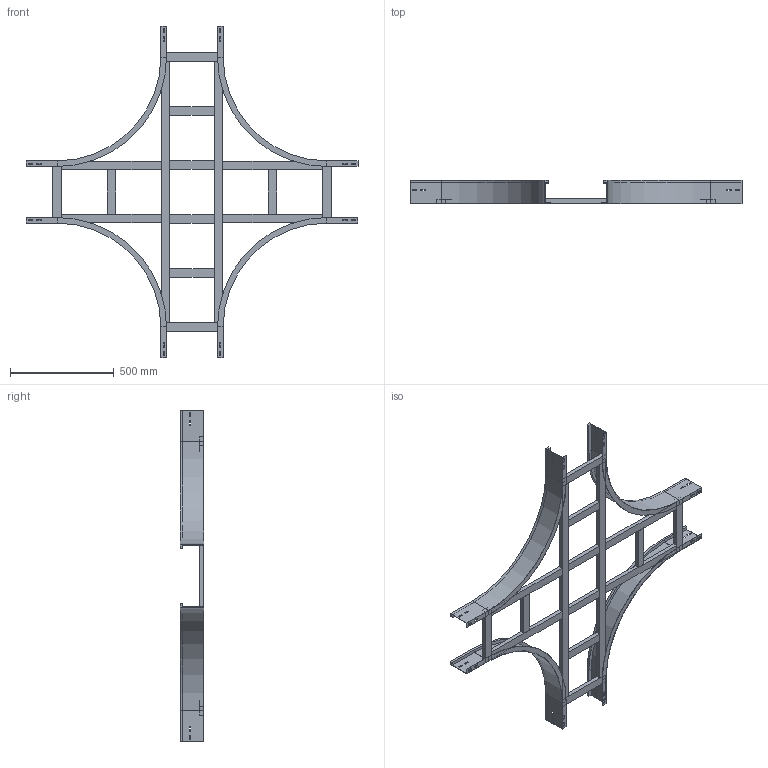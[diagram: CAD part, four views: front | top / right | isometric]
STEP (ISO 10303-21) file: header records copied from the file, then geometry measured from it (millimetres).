
FILE_DESCRIPTION (( 'STEP AP214' ), '1' );
FILE_NAME ('17B5J300.step', '2025-02-21T15:56:04', ( '' ), ( '' ), 'SwSTEP 2.0', 'SolidWorks 2023', '' );
FILE_SCHEMA (( 'AUTOMOTIVE_DESIGN' ));
Length unit declared in the file: millimetre
Products named in the file (7): TRAVERSINO_INTERMEDIO_R500+300; LONGH.INTERNO 90°_H112.5_R500; 17B5J300; TRAVERSINO_300; TRAVERSINO_LONG._R500+300; TRAVERSINO_COPPIA_300; TRAVERSINO_VERT_R500
Assembly tree (20 placements, depth 2):
  17B5J300
    LONGH.INTERNO 90°_H112.5_R500  x4
    TRAVERSINO_300  x4
    TRAVERSINO_LONG._R500+300  x2
    TRAVERSINO_INTERMEDIO_R500+300  x4
    TRAVERSINO_VERT_R500  x4
    TRAVERSINO_COPPIA_300  x2
Bounding box: 1600 x 112.5 x 1600 mm (x, y, z)
Volume: 7640900.5 mm3; surface area: 2220592.6 mm2
Topology: 20 solids, 20 shells, 328 faces, 800 edges, 512 vertices
Faces by surface type: plane 312, cylinder 16
Entity records: 2860 total; most frequent: CARTESIAN_POINT 459, DIRECTION 442, ORIENTED_EDGE 424, EDGE_CURVE 212, VECTOR 204, LINE 204, VERTEX_POINT 136, AXIS2_PLACEMENT_3D 119
